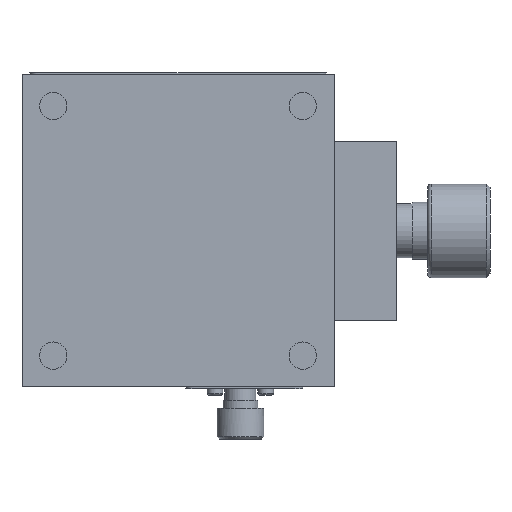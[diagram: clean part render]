
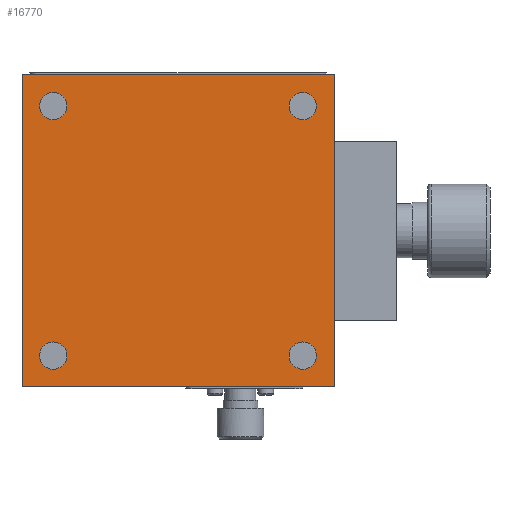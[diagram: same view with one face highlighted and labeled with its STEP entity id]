
A CAD part, front view. The second image highlights one B-rep face of the part: STEP entity #16770.
In plain terms, the highlighted planar face has unit normal (0, -1, 0).
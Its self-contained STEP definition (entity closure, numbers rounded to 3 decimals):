
#7858 = CARTESIAN_POINT ( 'NONE',  ( 16., -7.5, 16. ) ) ;
#7941 = DIRECTION ( 'NONE',  ( 0., 0., 1. ) ) ;
#7942 = DIRECTION ( 'NONE',  ( 0., 1., 0. ) ) ;
#7943 = AXIS2_PLACEMENT_3D ( 'NONE', #7858, #7942, #7941 ) ;
#7944 = CIRCLE ( 'NONE', #7943, 1.75 ) ;
#8134 = CIRCLE ( 'NONE', #8183, 1.75 ) ;
#8180 = DIRECTION ( 'NONE',  ( 0., 0., 1. ) ) ;
#8181 = DIRECTION ( 'NONE',  ( 0., 1., 0. ) ) ;
#8182 = CARTESIAN_POINT ( 'NONE',  ( -16., -7.5, -16. ) ) ;
#8183 = AXIS2_PLACEMENT_3D ( 'NONE', #8182, #8181, #8180 ) ;
#9022 = DIRECTION ( 'NONE',  ( 0., 0., 1. ) ) ;
#9023 = DIRECTION ( 'NONE',  ( 0., 1., 0. ) ) ;
#9024 = CARTESIAN_POINT ( 'NONE',  ( -16., -7.5, 16. ) ) ;
#9025 = AXIS2_PLACEMENT_3D ( 'NONE', #9024, #9023, #9022 ) ;
#9026 = CIRCLE ( 'NONE', #9025, 1.75 ) ;
#9066 = CARTESIAN_POINT ( 'NONE',  ( -16., -7.5, 17.75 ) ) ;
#9138 = CARTESIAN_POINT ( 'NONE',  ( 16., -7.5, -16. ) ) ;
#9140 = CARTESIAN_POINT ( 'NONE',  ( 16., -7.5, 14.25 ) ) ;
#9159 = CIRCLE ( 'NONE', #9258, 1.75 ) ;
#9201 = CARTESIAN_POINT ( 'NONE',  ( 16., -7.5, -14.25 ) ) ;
#9202 = DIRECTION ( 'NONE',  ( 0., 0., 1. ) ) ;
#9246 = CARTESIAN_POINT ( 'NONE',  ( -16., -7.5, 14.25 ) ) ;
#9257 = DIRECTION ( 'NONE',  ( 0., 1., 0. ) ) ;
#9258 = AXIS2_PLACEMENT_3D ( 'NONE', #9138, #9257, #9202 ) ;
#9270 = CARTESIAN_POINT ( 'NONE',  ( 16., -7.5, -17.75 ) ) ;
#9339 = DIRECTION ( 'NONE',  ( 0., 0., 1. ) ) ;
#9340 = DIRECTION ( 'NONE',  ( 0., 1., 0. ) ) ;
#9341 = AXIS2_PLACEMENT_3D ( 'NONE', #9461, #9340, #9339 ) ;
#9342 = CIRCLE ( 'NONE', #9341, 1.75 ) ;
#9461 = CARTESIAN_POINT ( 'NONE',  ( 16., -7.5, 16. ) ) ;
#9902 = CARTESIAN_POINT ( 'NONE',  ( -20., -7.5, 20. ) ) ;
#9903 = DIRECTION ( 'NONE',  ( 0., 0., 1. ) ) ;
#9904 = VECTOR ( 'NONE', #9903, 1000. ) ;
#9905 = CARTESIAN_POINT ( 'NONE',  ( -20., -7.5, -20. ) ) ;
#9906 = LINE ( 'NONE', #9905, #9904 ) ;
#9922 = CARTESIAN_POINT ( 'NONE',  ( -20., -7.5, -20. ) ) ;
#9969 = CARTESIAN_POINT ( 'NONE',  ( 16., -7.5, 17.75 ) ) ;
#11889 = DIRECTION ( 'NONE',  ( 1., 0., 0. ) ) ;
#11890 = VECTOR ( 'NONE', #11889, 1000. ) ;
#11891 = CARTESIAN_POINT ( 'NONE',  ( -20., -7.5, -20. ) ) ;
#11892 = LINE ( 'NONE', #11891, #11890 ) ;
#11893 = DIRECTION ( 'NONE',  ( 1., 0., 0. ) ) ;
#11894 = DIRECTION ( 'NONE',  ( 0., -1., 0. ) ) ;
#11895 = CARTESIAN_POINT ( 'NONE',  ( -20., -7.5, -20. ) ) ;
#11896 = AXIS2_PLACEMENT_3D ( 'NONE', #11895, #11894, #11893 ) ;
#11933 = CARTESIAN_POINT ( 'NONE',  ( 20., -7.5, 20. ) ) ;
#11934 = DIRECTION ( 'NONE',  ( 1., 0., 0. ) ) ;
#11935 = VECTOR ( 'NONE', #11934, 1000. ) ;
#11936 = CARTESIAN_POINT ( 'NONE',  ( -20., -7.5, 20. ) ) ;
#11937 = LINE ( 'NONE', #11936, #11935 ) ;
#11939 = DIRECTION ( 'NONE',  ( 0., 0., 1. ) ) ;
#11940 = DIRECTION ( 'NONE',  ( 0., 1., 0. ) ) ;
#11941 = CARTESIAN_POINT ( 'NONE',  ( -16., -7.5, 16. ) ) ;
#11942 = AXIS2_PLACEMENT_3D ( 'NONE', #11941, #11940, #11939 ) ;
#11943 = CIRCLE ( 'NONE', #11942, 1.75 ) ;
#11944 = DIRECTION ( 'NONE',  ( 0., 0., 1. ) ) ;
#11945 = VECTOR ( 'NONE', #11944, 1000. ) ;
#11946 = CARTESIAN_POINT ( 'NONE',  ( 20., -7.5, -20. ) ) ;
#11947 = LINE ( 'NONE', #11946, #11945 ) ;
#11948 = CARTESIAN_POINT ( 'NONE',  ( 20., -7.5, -20. ) ) ;
#12003 = DIRECTION ( 'NONE',  ( 0., 0., 1. ) ) ;
#12004 = DIRECTION ( 'NONE',  ( 0., 1., 0. ) ) ;
#12005 = CARTESIAN_POINT ( 'NONE',  ( 16., -7.5, -16. ) ) ;
#12006 = AXIS2_PLACEMENT_3D ( 'NONE', #12005, #12004, #12003 ) ;
#12007 = CIRCLE ( 'NONE', #12006, 1.75 ) ;
#12042 = PLANE ( 'NONE',  #11896 ) ;
#12043 = FACE_BOUND ( 'NONE', #19242, .T. ) ;
#12044 = FACE_BOUND ( 'NONE', #16802, .T. ) ;
#12045 = FACE_OUTER_BOUND ( 'NONE', #16789, .T. ) ;
#12046 = FACE_BOUND ( 'NONE', #19406, .T. ) ;
#12047 = FACE_BOUND ( 'NONE', #19364, .T. ) ;
#13871 = CARTESIAN_POINT ( 'NONE',  ( -16., -7.5, -14.25 ) ) ;
#13872 = CARTESIAN_POINT ( 'NONE',  ( -16., -7.5, -17.75 ) ) ;
#13873 = DIRECTION ( 'NONE',  ( 0., 0., 1. ) ) ;
#13874 = DIRECTION ( 'NONE',  ( 0., 1., 0. ) ) ;
#13875 = CARTESIAN_POINT ( 'NONE',  ( -16., -7.5, -16. ) ) ;
#13876 = AXIS2_PLACEMENT_3D ( 'NONE', #13875, #13874, #13873 ) ;
#13881 = CIRCLE ( 'NONE', #13876, 1.75 ) ;
#15507 = EDGE_CURVE ( 'NONE', #15508, #15509, #13881, .T. ) ;
#15508 = VERTEX_POINT ( 'NONE', #13872 ) ;
#15509 = VERTEX_POINT ( 'NONE', #13871 ) ;
#15542 = EDGE_CURVE ( 'NONE', #15622, #15543, #9026, .T. ) ;
#15543 = VERTEX_POINT ( 'NONE', #9066 ) ;
#15622 = VERTEX_POINT ( 'NONE', #9246 ) ;
#15624 = EDGE_CURVE ( 'NONE', #15625, #15626, #9159, .T. ) ;
#15625 = VERTEX_POINT ( 'NONE', #9270 ) ;
#15626 = VERTEX_POINT ( 'NONE', #9201 ) ;
#15695 = VERTEX_POINT ( 'NONE', #9140 ) ;
#15706 = EDGE_CURVE ( 'NONE', #15695, #15925, #9342, .T. ) ;
#15925 = VERTEX_POINT ( 'NONE', #9969 ) ;
#15960 = VERTEX_POINT ( 'NONE', #9922 ) ;
#15979 = EDGE_CURVE ( 'NONE', #15960, #15980, #9906, .T. ) ;
#15980 = VERTEX_POINT ( 'NONE', #9902 ) ;
#16770 = ADVANCED_FACE ( 'NONE', ( #12047, #12046, #12045, #12044, #12043 ), #12042, .T. ) ;
#16771 = ORIENTED_EDGE ( 'NONE', *, *, #16772, .T. ) ;
#16772 = EDGE_CURVE ( 'NONE', #15960, #16783, #11892, .T. ) ;
#16782 = ORIENTED_EDGE ( 'NONE', *, *, #15979, .F. ) ;
#16783 = VERTEX_POINT ( 'NONE', #11948 ) ;
#16785 = ORIENTED_EDGE ( 'NONE', *, *, #16786, .T. ) ;
#16786 = EDGE_CURVE ( 'NONE', #16783, #16792, #11947, .T. ) ;
#16787 = EDGE_CURVE ( 'NONE', #15543, #15622, #11943, .T. ) ;
#16788 = ORIENTED_EDGE ( 'NONE', *, *, #15542, .T. ) ;
#16789 = EDGE_LOOP ( 'NONE', ( #19270, #16782, #16771, #16785 ) ) ;
#16791 = EDGE_CURVE ( 'NONE', #15980, #16792, #11937, .T. ) ;
#16792 = VERTEX_POINT ( 'NONE', #11933 ) ;
#16795 = ORIENTED_EDGE ( 'NONE', *, *, #16796, .T. ) ;
#16796 = EDGE_CURVE ( 'NONE', #15626, #15625, #12007, .T. ) ;
#16797 = ORIENTED_EDGE ( 'NONE', *, *, #15624, .T. ) ;
#16802 = EDGE_LOOP ( 'NONE', ( #16803, #19241 ) ) ;
#16803 = ORIENTED_EDGE ( 'NONE', *, *, #19240, .T. ) ;
#19240 = EDGE_CURVE ( 'NONE', #15925, #15695, #7944, .T. ) ;
#19241 = ORIENTED_EDGE ( 'NONE', *, *, #15706, .T. ) ;
#19242 = EDGE_LOOP ( 'NONE', ( #16795, #16797 ) ) ;
#19270 = ORIENTED_EDGE ( 'NONE', *, *, #16791, .F. ) ;
#19271 = ORIENTED_EDGE ( 'NONE', *, *, #16787, .T. ) ;
#19353 = ORIENTED_EDGE ( 'NONE', *, *, #15507, .T. ) ;
#19364 = EDGE_LOOP ( 'NONE', ( #19404, #19353 ) ) ;
#19404 = ORIENTED_EDGE ( 'NONE', *, *, #19405, .T. ) ;
#19405 = EDGE_CURVE ( 'NONE', #15509, #15508, #8134, .T. ) ;
#19406 = EDGE_LOOP ( 'NONE', ( #19271, #16788 ) ) ;
